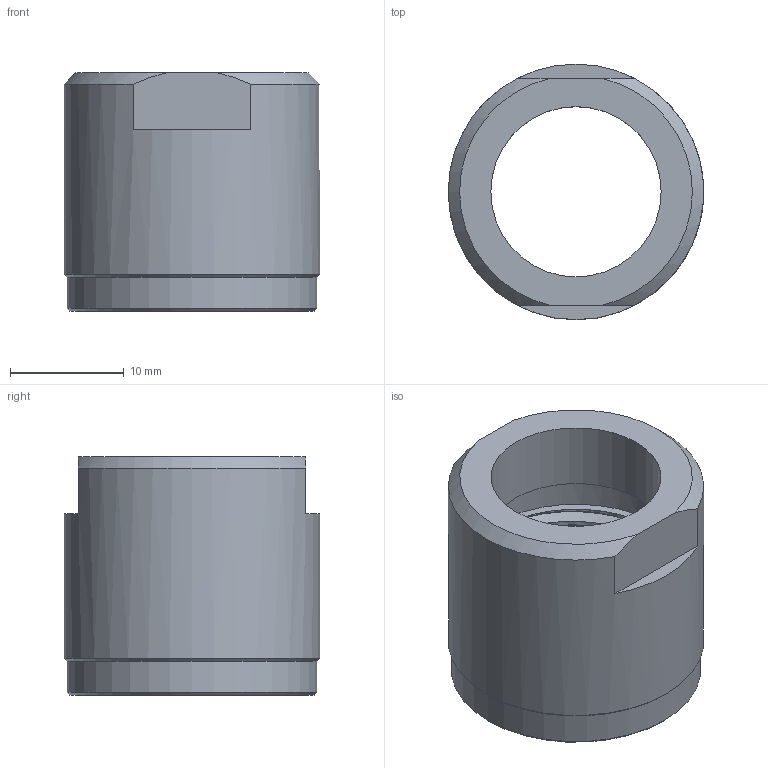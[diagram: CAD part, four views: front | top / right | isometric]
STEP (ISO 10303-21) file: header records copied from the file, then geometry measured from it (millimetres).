
FILE_DESCRIPTION (( 'STEP AP203' ), '1' );
FILE_NAME ('00129_REV_02.STEP', '2022-01-27T19:27:11', ( '' ), ( '' ), 'SwSTEP 2.0', 'SolidWorks 2020', '' );
FILE_SCHEMA (( 'CONFIG_CONTROL_DESIGN' ));
Length unit declared in the file: millimetre
Products named in the file (1): 00129_REV_02
Bounding box: 22.5 x 22.5 x 21 mm (x, y, z)
Volume: 2661.8 mm3; surface area: 3503.9 mm2
Topology: 1 solids, 1 shells, 22 faces, 54 edges, 35 vertices
Faces by surface type: plane 9, cone 5, cylinder 5, bspline 3
Full cylindrical faces by diameter (mm): 15 x1, 20 x1, 22 x1, 22.5 x1
Entity records: 2072 total; most frequent: CARTESIAN_POINT 1542, ORIENTED_EDGE 92, DIRECTION 86, EDGE_CURVE 46, AXIS2_PLACEMENT_3D 37, VERTEX_POINT 33, EDGE_LOOP 31, FACE_OUTER_BOUND 26
